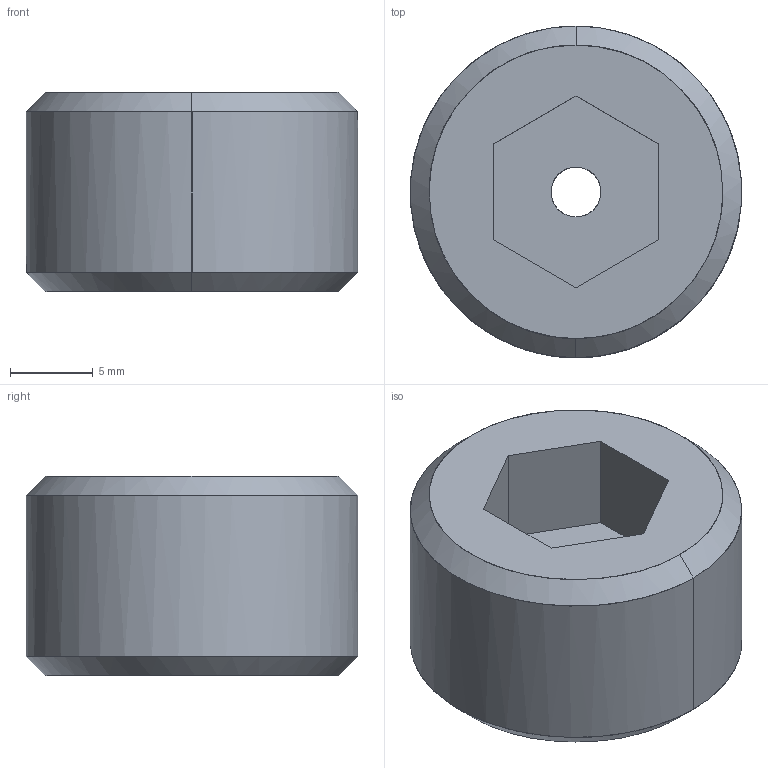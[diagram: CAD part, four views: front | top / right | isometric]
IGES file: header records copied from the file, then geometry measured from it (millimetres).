
Global section: file name: E:\UnigraphicsGraphicData\MISUMI_PRESS-PARTS\IGES\3d_mswh20_00462_r00.igs; native system: NX V5.0; preprocessor: UGS NX IGES V5.0; author: MISUMI; date: 20110105.161523; units: millimetre
Bounding box: 19.96 x 20 x 12 mm (x, y, z)
Surface area: 1546 mm2 (no closed solid volume)
Topology: 0 solids, 0 shells, 17 faces, 100 edges, 100 vertices
Faces by surface type: bspline 17
